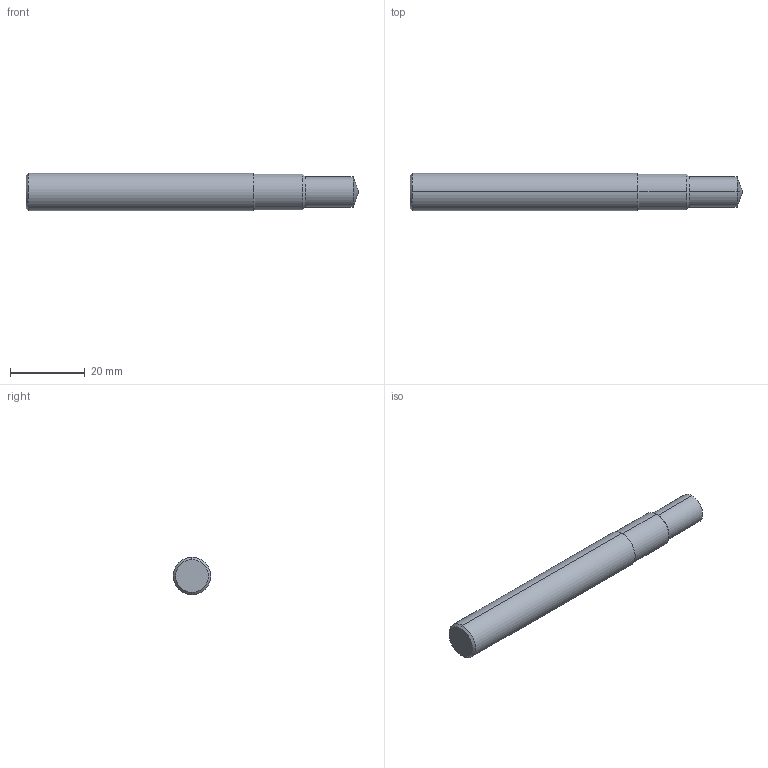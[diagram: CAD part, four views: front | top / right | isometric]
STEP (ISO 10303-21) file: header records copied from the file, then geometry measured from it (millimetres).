
FILE_DESCRIPTION (( 'STEP AP203' ), '1' );
FILE_NAME ('407038-RD-AS5202-03A.STEP', '2024-10-02T14:44:11', ( '' ), ( '' ), 'SwSTEP 2.0', 'SolidWorks 2024', '' );
FILE_SCHEMA (( 'CONFIG_CONTROL_DESIGN' ));
Length unit declared in the file: inch
Products named in the file (1): 407038-RD-AS5202-03A
Bounding box: 89 x 10 x 10 mm (x, y, z)
Volume: 6475.9 mm3; surface area: 2794.4 mm2
Topology: 1 solids, 1 shells, 16 faces, 30 edges, 16 vertices
Faces by surface type: cone 8, cylinder 6, plane 2
Entity records: 473 total; most frequent: DIRECTION 80, CARTESIAN_POINT 63, ORIENTED_EDGE 60, AXIS2_PLACEMENT_3D 33, EDGE_CURVE 30, CIRCLE 16, VERTEX_POINT 16, ADVANCED_FACE 16
